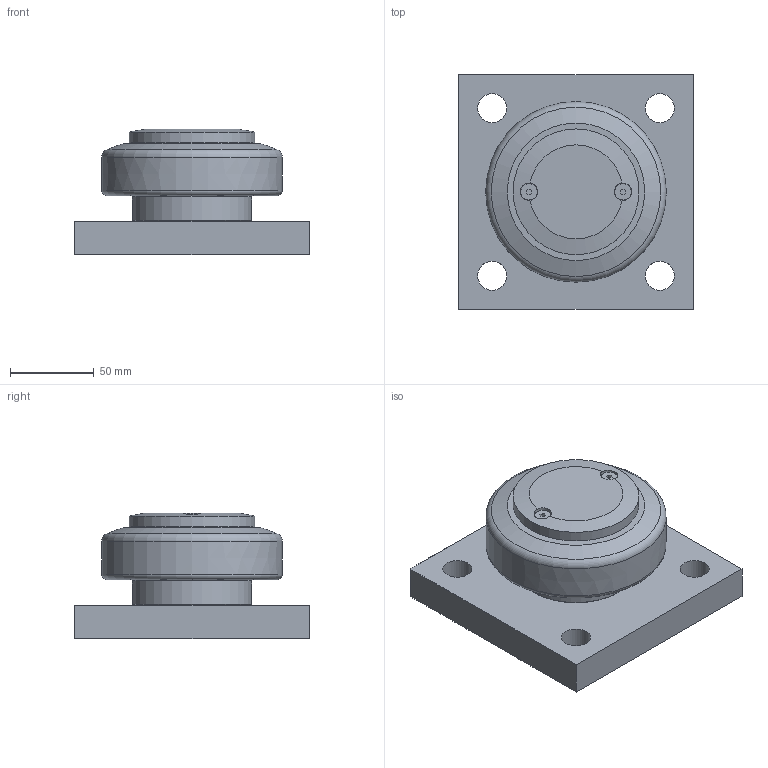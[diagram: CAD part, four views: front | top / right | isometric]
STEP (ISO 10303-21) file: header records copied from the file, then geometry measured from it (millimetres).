
FILE_DESCRIPTION(/* description */ ('-','CAx-IF Rec.Pracs.---Representation and Presentation of Product Manufacturing Information (PMI)---4.0---2014-10-13'),/* implementation_level */ '2;1');
FILE_NAME(/* name */ 'c:\temp\587fd193-6fba-42fb-98c9-baab8505afa7\7521bd20-5299-4191-8698-4bcb9a3c2875.stp',/* time_stamp */ '2020-04-01T16:08:06+02:00',/* author */ ('-'),/* organization */ ('NTI CADcenter A/S'),/* preprocessor_version */ 'ST-DEVELOPER v18',/* originating_system */ 'Autodesk Inventor 2020',/* authorisation */ '-');
FILE_SCHEMA (('AP242_MANAGED_MODEL_BASED_3D_ENGINEERING_MIM_LF { 1 0 10303 442 1 1 4 }'));
Length unit declared in the file: millimetre
Products named in the file (1): HTR 110.0360 BQ1000_Kontur
Bounding box: 140 x 140 x 74.9 mm (x, y, z)
Volume: 740889.2 mm3; surface area: 77898.3 mm2
Topology: 1 solids, 1 shells, 48 faces, 128 edges, 89 vertices
Faces by surface type: plane 27, cylinder 12, cone 6, torus 2, bspline 1
Full cylindrical faces by diameter (mm): 9.75 x2, 10.4 x2, 17.294 x4, 70.5 x1, 71 x1, 71.6 x1, 75 x1
Entity records: 1649 total; most frequent: CARTESIAN_POINT 332, DIRECTION 278, ORIENTED_EDGE 256, EDGE_CURVE 128, AXIS2_PLACEMENT_3D 106, VERTEX_POINT 89, LINE 66, VECTOR 66
